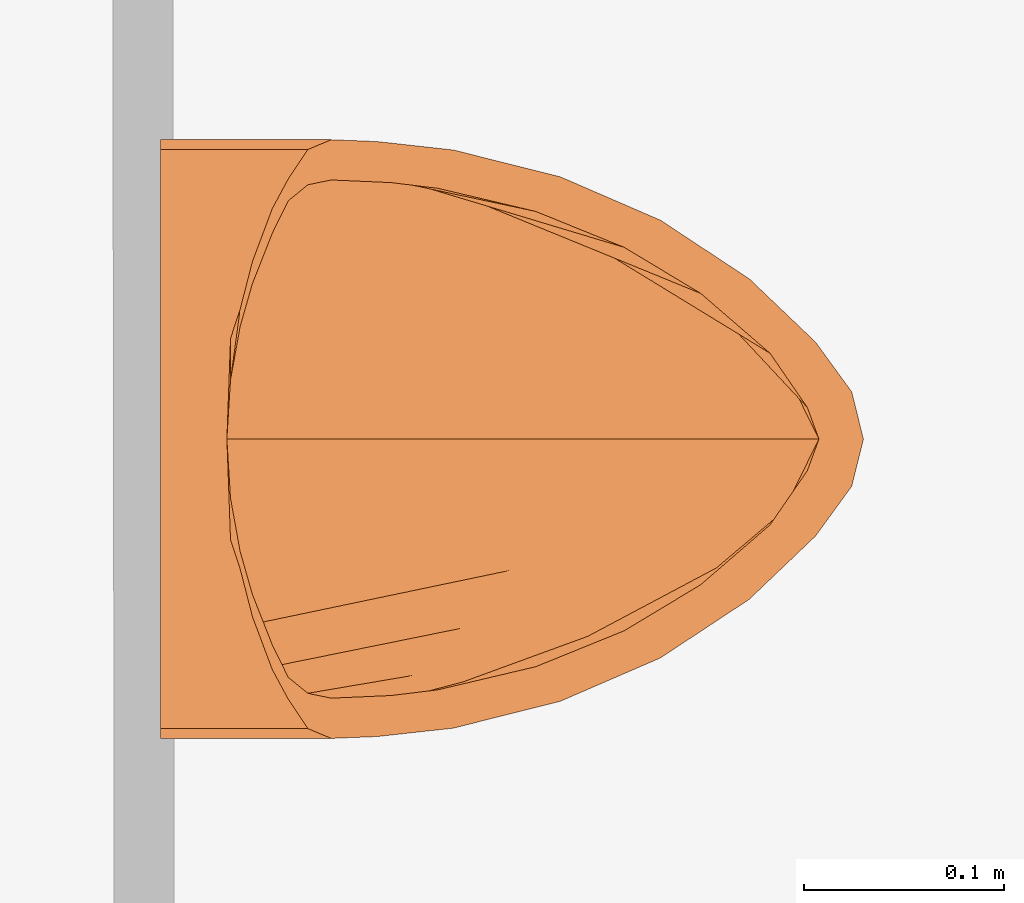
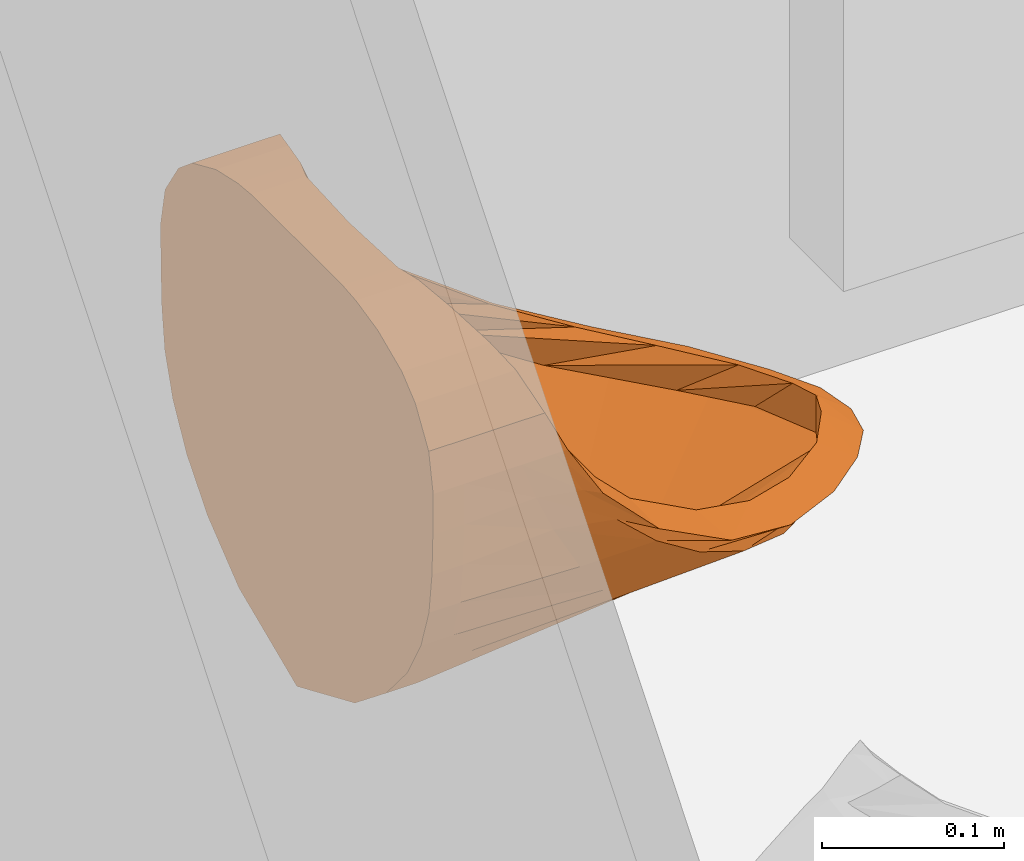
# One storey, part 157 of 158: 1 proxy.
"""IFC2X3 building model written with IfcOpenShell, lengths in metres."""

from ifc_helpers import new_model, entity, si_unit, converted_unit, derived_unit, money_unit, direction, frame, origin_with_axes, place, context, subcontext, project, spatial, open_shell, faceted_brep, surface_model, type_object, element, save


model = new_model("IFC2X3")

# Units and contexts
model_context = context("Model", 3, precision=1e-05, world=origin_with_axes(), true_north=direction((0.0, 1.0)))
body_context = subcontext(model_context, "Body", "Model", "MODEL_VIEW")
ifc_project = project(units=[si_unit("LENGTHUNIT", "METRE"), si_unit("AREAUNIT", "SQUARE_METRE"), si_unit("VOLUMEUNIT", "CUBIC_METRE"), converted_unit("PLANEANGLEUNIT", "DEGREE", entity("IfcPlaneAngleMeasure", 0.0174532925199), si_unit("PLANEANGLEUNIT", "RADIAN"), dimensions=[0, 0, 0, 0, 0, 0, 0]), money_unit("EUR"), converted_unit("TIMEUNIT", "Year", entity("IfcTimeMeasure", 31556926.0), si_unit("TIMEUNIT", "SECOND"), dimensions=[0, 0, 1, 0, 0, 0, 0]), si_unit("MASSUNIT", "GRAM", prefix="KILO"), si_unit("THERMODYNAMICTEMPERATUREUNIT", "DEGREE_CELSIUS"), si_unit("LUMINOUSINTENSITYUNIT", "LUMEN"), si_unit("ENERGYUNIT", "JOULE", prefix="MEGA"), derived_unit("THERMALCONDUCTANCEUNIT", [(si_unit("POWERUNIT", "WATT"), 1), (si_unit("LENGTHUNIT", "METRE"), -1), (si_unit("THERMODYNAMICTEMPERATUREUNIT", "KELVIN"), -1)]), derived_unit("SPECIFICHEATCAPACITYUNIT", [(si_unit("ENERGYUNIT", "JOULE"), 1), (si_unit("MASSUNIT", "GRAM", prefix="KILO"), -1), (si_unit("THERMODYNAMICTEMPERATUREUNIT", "KELVIN"), -1)]), derived_unit("MASSDENSITYUNIT", [(si_unit("MASSUNIT", "GRAM", prefix="KILO"), 1), (si_unit("VOLUMEUNIT", "CUBIC_METRE"), -1)])], contexts=[model_context])

# Site, building, storey
site_placement = place(None, origin_with_axes())
site = spatial("IfcSite", under=ifc_project, at=site_placement, Name="Gelände", CompositionType="ELEMENT")
building_placement = place(site_placement, origin_with_axes())
building = spatial("IfcBuilding", under=site, at=building_placement, Name="Gebäude", CompositionType="ELEMENT")
storey_placement = place(building_placement, origin_with_axes())
storey = spatial("IfcBuildingStorey", under=building, at=storey_placement, Name="ERDGESCHOSS", CompositionType="ELEMENT", Elevation=0.0)

# Proxy
building_element_proxy_type = type_object("IfcBuildingElementProxyType", Name="Urinal 1 25", PredefinedType="NOTDEFINED")
proxy_placement = place(storey_placement, frame((13.2942013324, 24.9743781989, -0.10687853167), z_axis=(0.0, 0.0, 1.0), x_axis=(0.0, 1.0, 0.0)))
element("IfcBuildingElementProxy", 1, at=proxy_placement, inside=storey, type_object=building_element_proxy_type, Name="Objekt-00219", context=body_context, shape_type="SurfaceModel", body=[
    faceted_brep([(0.0, 0.00664554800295, 1.0), (-0.0503710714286, 0.00664554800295, 0.999898), (-0.0503710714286, 0.0, 0.999898), (0.0, 0.0, 1.0), (0.0503710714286, 0.00664554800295, 0.999898), (0.0650260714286, 0.00664554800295, 0.998525), (0.0890367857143, 0.00664554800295, 0.993198), (0.115533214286, 0.00664554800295, 0.981535), (0.130329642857, 0.00664554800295, 0.969181), (0.1451025, 0.00664554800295, 0.945871), (0.15, 0.00664554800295, 0.920148), (0.149671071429, 0.00664554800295, 0.89263), (0.148683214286, 0.00664554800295, 0.865111), (0.145370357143, 0.00664554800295, 0.837593), (0.136527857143, 0.00664554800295, 0.810074), (0.121330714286, 0.00664554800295, 0.782556), (0.0982478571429, 0.00664554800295, 0.755037), (0.0638796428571, 0.00664554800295, 0.727519), (0.0, 0.00664554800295, 0.7), (-0.0638796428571, 0.00664554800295, 0.727519), (-0.0982478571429, 0.00664554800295, 0.755037), (-0.121330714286, 0.00664554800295, 0.782556), (-0.136527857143, 0.00664554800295, 0.810074), (-0.145370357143, 0.00664554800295, 0.837593), (-0.148683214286, 0.00664554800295, 0.865111), (-0.149671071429, 0.00664554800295, 0.89263), (-0.15, 0.00664554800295, 0.920148), (-0.1451025, 0.00664554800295, 0.945871), (-0.130329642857, 0.00664554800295, 0.969181), (-0.115533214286, 0.00664554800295, 0.981535), (-0.0890367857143, 0.00664554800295, 0.993198), (-0.0650260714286, 0.00664554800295, 0.998525), (-0.0650260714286, 0.0, 0.998525), (-0.0890367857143, 0.0, 0.993198), (-0.115533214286, 0.0, 0.981535), (-0.130329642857, 0.0, 0.969181), (-0.1451025, 0.0, 0.945871), (-0.15, 0.0, 0.920148), (-0.149671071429, 0.0, 0.89263), (-0.148683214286, 0.0, 0.865111), (-0.145370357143, 0.0, 0.837593), (-0.136527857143, 0.0, 0.810074), (-0.121330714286, 0.0, 0.782556), (-0.0982478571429, 0.0, 0.755037), (-0.0638796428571, 0.0, 0.727519), (0.0, 0.0, 0.7), (0.0638796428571, 0.0, 0.727519), (0.0982478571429, 0.0, 0.755037), (0.121330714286, 0.0, 0.782556), (0.136527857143, 0.0, 0.810074), (0.145370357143, 0.0, 0.837593), (0.148683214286, 0.0, 0.865111), (0.149671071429, 0.0, 0.89263), (0.15, 0.0, 0.920148), (0.1451025, 0.0, 0.945871), (0.130329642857, 0.0, 0.969181), (0.115533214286, 0.0, 0.981535), (0.0890367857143, 0.0, 0.993198), (0.0650260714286, 0.0, 0.998525), (0.0503710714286, 0.0, 0.999898)], [[[0, 1, 2, 3]], [[0, 4, 5, 6, 7, 8, 9, 10, 11, 12, 13, 14, 15, 16, 17, 18, 19, 20, 21, 22, 23, 24, 25, 26, 27, 28, 29, 30, 31, 1]], [[1, 31, 32, 2]], [[3, 2, 32, 33, 34, 35, 36, 37, 38, 39, 40, 41, 42, 43, 44, 45, 46, 47, 48, 49, 50, 51, 52, 53, 54, 55, 56, 57, 58, 59]], [[4, 0, 3, 59]], [[5, 4, 59, 58]], [[6, 5, 58, 57]], [[7, 6, 57, 56]], [[8, 7, 56, 55]], [[9, 8, 55, 54]], [[10, 9, 54, 53]], [[11, 10, 53, 52]], [[12, 11, 52, 51]], [[13, 12, 51, 50]], [[14, 13, 50, 49]], [[15, 14, 49, 48]], [[16, 15, 48, 47]], [[17, 16, 47, 46]], [[18, 17, 46, 45]], [[19, 18, 45, 44]], [[20, 19, 44, 43]], [[21, 20, 43, 42]], [[22, 21, 42, 41]], [[23, 22, 41, 40]], [[24, 23, 40, 39]], [[25, 24, 39, 38]], [[26, 25, 38, 37]], [[27, 26, 37, 36]], [[28, 27, 36, 35]], [[29, 28, 35, 34]], [[30, 29, 34, 33]], [[31, 30, 33, 32]]]),
    surface_model("IfcShellBasedSurfaceModel", [(0.0, 0.0, 1.0), (0.0, -0.0132910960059, 1.0), (-0.0503710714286, -0.0132910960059, 0.999898), (0.0503710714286, 0.0, 0.999898), (-0.0503710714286, -0.0199818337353, 0.999898), (-0.0503710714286, 0.0, 0.999898), (0.0503710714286, -0.0132910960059, 0.999898), (0.0, -0.0199366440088, 1.0), (-0.0650260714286, -0.0205918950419, 0.998525), (-0.0650260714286, -0.0132910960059, 0.998525), (0.0650260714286, 0.0, 0.998525), (-0.0503710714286, -0.0255787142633, 0.999898), (-0.0650260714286, -0.0264399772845, 0.998525), (-0.0650260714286, 0.0, 0.998525), (0.0650260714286, -0.0132910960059, 0.998525), (0.0503710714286, -0.0199818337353, 0.999898), (0.0, -0.0255096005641, 1.0), (-0.0890367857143, -0.0299953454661, 0.993198), (-0.0890367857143, -0.022924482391, 0.993198), (-0.0890367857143, -0.0132910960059, 0.993198), (0.0890367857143, 0.0, 0.993198), (-0.0503710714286, -0.0284030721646, 0.999898), (-0.0650260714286, -0.0332184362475, 0.998525), (-0.0890367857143, -0.0394094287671, 0.993198), (-0.0890367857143, 0.0, 0.993198), (0.0890367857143, -0.0132910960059, 0.993198), (0.0650260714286, -0.0205918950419, 0.998525), (0.0503710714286, -0.0255787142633, 0.999898), (0.0, -0.0265821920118, 1.0), (-0.115533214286, -0.0493511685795, 0.981535), (-0.115533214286, -0.037406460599, 0.981535), (-0.115533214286, -0.0278475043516, 0.981535), (-0.115533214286, -0.0132910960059, 0.981535), (0.115533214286, 0.0, 0.981535), (-0.115533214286, 0.0, 0.981535), (0.115533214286, -0.0132910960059, 0.981535), (0.0890367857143, -0.022924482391, 0.993198), (0.0650260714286, -0.0264399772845, 0.998525), (0.0503710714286, -0.0284030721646, 0.999898), (-0.130329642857, -0.0573218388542, 0.969181), (-0.130329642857, -0.0448800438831, 0.969181), (-0.130329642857, -0.0327917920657, 0.969181), (-0.130329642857, -0.0132910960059, 0.969181), (0.130329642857, 0.0, 0.969181), (-0.130329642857, 0.0, 0.969181), (0.130329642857, -0.0132910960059, 0.969181), (0.115533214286, -0.0278475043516, 0.981535), (0.0890367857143, -0.0299953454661, 0.993198), (0.0650260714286, -0.0332184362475, 0.998525), (-0.1451025, -0.0671731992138, 0.945871), (-0.1451025, -0.0579611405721, 0.945871), (-0.1451025, -0.0413751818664, 0.945871), (-0.1451025, -0.0132910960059, 0.945871), (0.1451025, 0.0, 0.945871), (-0.1451025, 0.0, 0.945871), (0.1451025, -0.0132910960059, 0.945871), (0.130329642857, -0.0327917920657, 0.969181), (0.115533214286, -0.037406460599, 0.981535), (0.0890367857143, -0.0394094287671, 0.993198), (-0.15, -0.0788587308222, 0.920148), (-0.15, -0.0709079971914, 0.920148), (-0.15, -0.0497366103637, 0.920148), (-0.15, -0.0132910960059, 0.920148), (0.15, 0.0, 0.920148), (-0.15, 0.0, 0.920148), (0.15, -0.0132910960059, 0.920148), (0.1451025, -0.0413751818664, 0.945871), (0.130329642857, -0.0448800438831, 0.969181), (0.115533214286, -0.0493511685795, 0.981535), (-0.149088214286, -0.101763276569, 0.882346), (-0.148938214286, -0.0888948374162, 0.888729), (-0.148493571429, -0.0595042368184, 0.893637), (-0.149671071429, -0.0132910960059, 0.89263), (0.149671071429, 0.0, 0.89263), (-0.149671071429, 0.0, 0.89263), (0.149671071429, -0.0132910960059, 0.89263), (0.15, -0.0497366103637, 0.920148), (0.1451025, -0.0579611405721, 0.945871), (0.130329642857, -0.0573218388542, 0.969181), (-0.144867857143, -0.140032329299, 0.842424), (-0.146004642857, -0.112082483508, 0.859303), (-0.1458225, -0.0721002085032, 0.866246), (-0.148683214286, -0.0132910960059, 0.865111), (0.148683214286, 0.0, 0.865111), (-0.148683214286, 0.0, 0.865111), (0.148683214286, -0.0132910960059, 0.865111), (0.148493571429, -0.0595042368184, 0.893637), (0.15, -0.0709079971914, 0.920148), (0.1451025, -0.0671731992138, 0.945871), (-0.131359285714, -0.19376955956, 0.807653), (-0.1416, -0.140089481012, 0.832354), (-0.137941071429, -0.0936357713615, 0.829001), (-0.145370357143, -0.0132910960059, 0.837593), (0.145370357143, 0.0, 0.837593), (-0.145370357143, 0.0, 0.837593), (0.145370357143, -0.0132910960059, 0.837593), (0.1458225, -0.0721002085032, 0.866246), (0.148938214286, -0.0888948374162, 0.888729), (0.15, -0.0788587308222, 0.920148), (-0.109682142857, -0.243829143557, 0.787417), (-0.133041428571, -0.172454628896, 0.808327), (-0.118344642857, -0.120457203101, 0.792232), (-0.136527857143, -0.0132910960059, 0.810074), (0.136527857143, 0.0, 0.810074), (-0.136527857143, 0.0, 0.810074), (0.136527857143, -0.0132910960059, 0.810074), (0.137941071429, -0.0936357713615, 0.829001), (0.146004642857, -0.112082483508, 0.859303), (0.149088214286, -0.101763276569, 0.882346), (-0.0803528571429, -0.288311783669, 0.776444), (-0.1187925, -0.20864495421, 0.787618), (-0.09477, -0.1442549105, 0.76517), (-0.121330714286, -0.0132910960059, 0.782556), (0.121330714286, 0.0, 0.782556), (-0.121330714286, 0.0, 0.782556), (0.121330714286, -0.0132910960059, 0.782556), (0.118344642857, -0.120457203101, 0.792232), (0.1416, -0.140089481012, 0.832354), (0.144867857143, -0.140032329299, 0.842424), (-0.0486064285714, -0.321579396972, 0.768676), (-0.0942653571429, -0.248062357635, 0.770567), (-0.0659742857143, -0.167632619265, 0.742159), (-0.0982478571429, -0.0132910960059, 0.755037), (0.0982478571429, 0.0, 0.755037), (-0.0982478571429, 0.0, 0.755037), (0.0982478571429, -0.0132910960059, 0.755037), (0.09477, -0.1442549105, 0.76517), (0.133041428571, -0.172454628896, 0.808327), (0.131359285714, -0.19376955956, 0.807653), (-0.0237192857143, -0.339672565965, 0.765137), (-0.0589767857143, -0.290058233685, 0.757456), (-0.0335507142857, -0.190103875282, 0.724265), (-0.0638796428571, -0.0132910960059, 0.727519), (0.0638796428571, 0.0, 0.727519), (-0.0638796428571, 0.0, 0.727519), (0.0638796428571, -0.0132910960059, 0.727519), (0.0659742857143, -0.167632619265, 0.742159), (0.1187925, -0.20864495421, 0.787618), (0.109682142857, -0.243829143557, 0.787417), (0.0, -0.345568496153, 0.763229), (0.0, -0.333940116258, 0.748501), (0.0, -0.21040868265, 0.712313), (0.0, -0.0132910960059, 0.7), (0.0, 0.0, 0.7), (0.0335507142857, -0.190103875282, 0.724265), (0.0942653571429, -0.248062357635, 0.770567), (0.0803528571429, -0.288311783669, 0.776444), (0.0237192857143, -0.339672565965, 0.765137), (0.0589767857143, -0.290058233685, 0.757456), (0.0486064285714, -0.321579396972, 0.768676)], [open_shell([[[0, 1, 2]], [[3, 1, 0]], [[1, 4, 2]], [[0, 2, 5]], [[3, 6, 1]], [[1, 7, 4]], [[2, 4, 8]], [[5, 2, 9]], [[10, 6, 3]], [[6, 7, 1]], [[7, 11, 4]], [[4, 12, 8]], [[2, 8, 9]], [[5, 9, 13]], [[10, 14, 6]], [[6, 15, 7]], [[7, 16, 11]], [[4, 11, 12]], [[8, 12, 17]], [[9, 8, 18]], [[13, 9, 19]], [[20, 14, 10]], [[14, 15, 6]], [[15, 16, 7]], [[16, 21, 11]], [[11, 22, 12]], [[12, 23, 17]], [[8, 17, 18]], [[9, 18, 19]], [[13, 19, 24]], [[20, 25, 14]], [[14, 26, 15]], [[15, 27, 16]], [[16, 28, 21]], [[11, 21, 22]], [[12, 22, 23]], [[17, 23, 29]], [[18, 17, 30]], [[19, 18, 31]], [[24, 19, 32]], [[33, 25, 20]], [[25, 26, 14]], [[26, 27, 15]], [[27, 28, 16]], [[17, 29, 30]], [[18, 30, 31]], [[19, 31, 32]], [[24, 32, 34]], [[33, 35, 25]], [[25, 36, 26]], [[26, 37, 27]], [[27, 38, 28]], [[30, 29, 39]], [[31, 30, 40]], [[32, 31, 41]], [[34, 32, 42]], [[43, 35, 33]], [[35, 36, 25]], [[36, 37, 26]], [[37, 38, 27]], [[30, 39, 40]], [[31, 40, 41]], [[32, 41, 42]], [[34, 42, 44]], [[43, 45, 35]], [[35, 46, 36]], [[36, 47, 37]], [[37, 48, 38]], [[40, 39, 49]], [[41, 40, 50]], [[42, 41, 51]], [[44, 42, 52]], [[53, 45, 43]], [[45, 46, 35]], [[46, 47, 36]], [[47, 48, 37]], [[40, 49, 50]], [[41, 50, 51]], [[42, 51, 52]], [[44, 52, 54]], [[53, 55, 45]], [[45, 56, 46]], [[46, 57, 47]], [[47, 58, 48]], [[50, 49, 59]], [[51, 50, 60]], [[52, 51, 61]], [[54, 52, 62]], [[63, 55, 53]], [[55, 56, 45]], [[56, 57, 46]], [[57, 58, 47]], [[50, 59, 60]], [[51, 60, 61]], [[52, 61, 62]], [[54, 62, 64]], [[63, 65, 55]], [[55, 66, 56]], [[56, 67, 57]], [[57, 68, 58]], [[60, 59, 69]], [[61, 60, 70]], [[62, 61, 71]], [[64, 62, 72]], [[73, 65, 63]], [[65, 66, 55]], [[66, 67, 56]], [[67, 68, 57]], [[60, 69, 70]], [[61, 70, 71]], [[62, 71, 72]], [[64, 72, 74]], [[73, 75, 65]], [[65, 76, 66]], [[66, 77, 67]], [[67, 78, 68]], [[70, 69, 79]], [[71, 70, 80]], [[72, 71, 81]], [[74, 72, 82]], [[83, 75, 73]], [[75, 76, 65]], [[76, 77, 66]], [[77, 78, 67]], [[70, 79, 80]], [[71, 80, 81]], [[72, 81, 82]], [[74, 82, 84]], [[83, 85, 75]], [[75, 86, 76]], [[76, 87, 77]], [[77, 88, 78]], [[80, 79, 89]], [[81, 80, 90]], [[82, 81, 91]], [[84, 82, 92]], [[93, 85, 83]], [[85, 86, 75]], [[86, 87, 76]], [[87, 88, 77]], [[80, 89, 90]], [[81, 90, 91]], [[82, 91, 92]], [[84, 92, 94]], [[93, 95, 85]], [[85, 96, 86]], [[86, 97, 87]], [[87, 98, 88]], [[90, 89, 99]], [[91, 90, 100]], [[92, 91, 101]], [[94, 92, 102]], [[103, 95, 93]], [[95, 96, 85]], [[96, 97, 86]], [[97, 98, 87]], [[90, 99, 100]], [[91, 100, 101]], [[92, 101, 102]], [[94, 102, 104]], [[103, 105, 95]], [[95, 106, 96]], [[96, 107, 97]], [[97, 108, 98]], [[100, 99, 109]], [[101, 100, 110]], [[102, 101, 111]], [[104, 102, 112]], [[113, 105, 103]], [[105, 106, 95]], [[106, 107, 96]], [[107, 108, 97]], [[100, 109, 110]], [[101, 110, 111]], [[102, 111, 112]], [[104, 112, 114]], [[113, 115, 105]], [[105, 116, 106]], [[106, 117, 107]], [[107, 118, 108]], [[110, 109, 119]], [[111, 110, 120]], [[112, 111, 121]], [[114, 112, 122]], [[123, 115, 113]], [[115, 116, 105]], [[116, 117, 106]], [[117, 118, 107]], [[110, 119, 120]], [[111, 120, 121]], [[112, 121, 122]], [[114, 122, 124]], [[123, 125, 115]], [[115, 126, 116]], [[116, 127, 117]], [[117, 128, 118]], [[120, 119, 129]], [[121, 120, 130]], [[122, 121, 131]], [[124, 122, 132]], [[133, 125, 123]], [[125, 126, 115]], [[126, 127, 116]], [[127, 128, 117]], [[120, 129, 130]], [[121, 130, 131]], [[122, 131, 132]], [[124, 132, 134]], [[133, 135, 125]], [[125, 136, 126]], [[126, 137, 127]], [[127, 138, 128]], [[130, 129, 139]], [[131, 130, 140]], [[132, 131, 141]], [[134, 132, 142]], [[143, 135, 133]], [[135, 136, 125]], [[136, 137, 126]], [[137, 138, 127]], [[130, 139, 140]], [[131, 140, 141]], [[132, 141, 142]], [[134, 142, 143]], [[143, 142, 135]], [[135, 144, 136]], [[136, 145, 137]], [[137, 146, 138]], [[140, 139, 147]], [[141, 140, 148]], [[142, 141, 144]], [[142, 144, 135]], [[144, 145, 136]], [[145, 146, 137]], [[140, 147, 148]], [[141, 148, 144]], [[144, 148, 145]], [[145, 149, 146]], [[148, 147, 149]], [[148, 149, 145]]])]),
    surface_model("IfcShellBasedSurfaceModel", [(0.0, -0.0265821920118, 1.0), (0.0, -0.0265821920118, 0.99), (-0.0295992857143, -0.0284030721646, 0.988966), (0.0503710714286, -0.0284030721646, 0.999898), (-0.0503710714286, -0.0284030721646, 0.999898), (0.0295992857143, -0.0284030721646, 0.988966), (-0.056325, -0.0332184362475, 0.98626), (0.0650260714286, -0.0332184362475, 0.998525), (-0.0650260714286, -0.0332184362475, 0.998525), (0.056325, -0.0332184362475, 0.98626), (-0.0779764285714, -0.0394094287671, 0.98082), (0.0890367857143, -0.0394094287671, 0.993198), (-0.0890367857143, -0.0394094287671, 0.993198), (0.0779764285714, -0.0394094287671, 0.98082), (-0.103178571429, -0.0493511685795, 0.968491), (0.115533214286, -0.0493511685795, 0.981535), (-0.115533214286, -0.0493511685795, 0.981535), (0.103178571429, -0.0493511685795, 0.968491), (-0.119395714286, -0.0573218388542, 0.952746), (0.130329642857, -0.0573218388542, 0.969181), (-0.130329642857, -0.0573218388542, 0.969181), (0.119395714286, -0.0573218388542, 0.952746), (-0.127429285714, -0.0671731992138, 0.936322), (0.1451025, -0.0671731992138, 0.945871), (-0.1451025, -0.0671731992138, 0.945871), (0.127429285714, -0.0671731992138, 0.936322), (-0.129833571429, -0.0788587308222, 0.920148), (0.15, -0.0788587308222, 0.920148), (-0.15, -0.0788587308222, 0.920148), (0.129833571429, -0.0788587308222, 0.920148), (-0.128517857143, -0.108956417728, 0.87807), (0.149088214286, -0.101763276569, 0.882346), (-0.149088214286, -0.101763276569, 0.882346), (0.128517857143, -0.108956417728, 0.87807), (-0.125659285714, -0.132300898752, 0.854025), (0.144867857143, -0.140032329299, 0.842424), (-0.144867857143, -0.140032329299, 0.842424), (0.125659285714, -0.132300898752, 0.854025), (-0.114079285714, -0.181322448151, 0.821972), (0.131359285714, -0.19376955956, 0.807653), (-0.131359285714, -0.19376955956, 0.807653), (0.114079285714, -0.181322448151, 0.821972), (-0.09609, -0.225666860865, 0.801839), (0.109682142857, -0.243829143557, 0.787417), (-0.109682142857, -0.243829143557, 0.787417), (0.09609, -0.225666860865, 0.801839), (-0.0730071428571, -0.264001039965, 0.790008), (0.0803528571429, -0.288311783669, 0.776444), (-0.0803528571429, -0.288311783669, 0.776444), (0.0730071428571, -0.264001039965, 0.790008), (-0.0429910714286, -0.298777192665, 0.783002), (0.0486064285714, -0.321579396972, 0.768676), (-0.0486064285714, -0.321579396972, 0.768676), (0.0429910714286, -0.298777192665, 0.783002), (-0.0157767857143, -0.317489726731, 0.78057), (0.0237192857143, -0.339672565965, 0.765137), (-0.0237192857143, -0.339672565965, 0.765137), (0.0157767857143, -0.317489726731, 0.78057), (0.0, -0.323277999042, 0.78), (0.0, -0.345568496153, 0.763229)], [open_shell([[[0, 1, 2]], [[3, 1, 0]], [[0, 2, 4]], [[3, 5, 1]], [[4, 2, 6]], [[7, 5, 3]], [[4, 6, 8]], [[7, 9, 5]], [[8, 6, 10]], [[11, 9, 7]], [[8, 10, 12]], [[11, 13, 9]], [[12, 10, 14]], [[15, 13, 11]], [[12, 14, 16]], [[15, 17, 13]], [[16, 14, 18]], [[19, 17, 15]], [[16, 18, 20]], [[19, 21, 17]], [[20, 18, 22]], [[23, 21, 19]], [[20, 22, 24]], [[23, 25, 21]], [[24, 22, 26]], [[27, 25, 23]], [[24, 26, 28]], [[27, 29, 25]], [[28, 26, 30]], [[31, 29, 27]], [[28, 30, 32]], [[31, 33, 29]], [[32, 30, 34]], [[35, 33, 31]], [[32, 34, 36]], [[35, 37, 33]], [[36, 34, 38]], [[39, 37, 35]], [[36, 38, 40]], [[39, 41, 37]], [[40, 38, 42]], [[43, 41, 39]], [[40, 42, 44]], [[43, 45, 41]], [[44, 42, 46]], [[47, 45, 43]], [[44, 46, 48]], [[47, 49, 45]], [[48, 46, 50]], [[51, 49, 47]], [[48, 50, 52]], [[51, 53, 49]], [[52, 50, 54]], [[55, 53, 51]], [[52, 54, 56]], [[55, 57, 53]], [[56, 54, 58]], [[59, 57, 55]], [[56, 58, 59]], [[59, 58, 57]]])]),
    surface_model("IfcShellBasedSurfaceModel", [(0.0, -0.0265821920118, 0.99), (0.0, -0.0190527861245, 0.965651), (-0.0274382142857, -0.0221203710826, 0.964581), (0.0295992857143, -0.0284030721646, 0.988966), (-0.0295992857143, -0.0284030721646, 0.988966), (0.0274382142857, -0.0221203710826, 0.964581), (-0.0502746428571, -0.0247493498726, 0.962521), (0.056325, -0.0332184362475, 0.98626), (-0.056325, -0.0332184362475, 0.98626), (0.0502746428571, -0.0247493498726, 0.962521), (-0.0711675, -0.0265502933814, 0.959712), (0.0779764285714, -0.0394094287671, 0.98082), (-0.0779764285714, -0.0394094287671, 0.98082), (0.0711675, -0.0265502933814, 0.959712), (-0.0919746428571, -0.0293587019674, 0.954245), (0.103178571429, -0.0493511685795, 0.968491), (-0.103178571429, -0.0493511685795, 0.968491), (0.0919746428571, -0.0293587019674, 0.954245), (-0.111946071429, -0.0330363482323, 0.945674), (0.119395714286, -0.0573218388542, 0.952746), (-0.119395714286, -0.0573218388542, 0.952746), (0.111946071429, -0.0330363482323, 0.945674), (-0.123648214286, -0.0368336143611, 0.937494), (0.127429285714, -0.0671731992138, 0.936322), (-0.127429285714, -0.0671731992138, 0.936322), (0.123648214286, -0.0368336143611, 0.937494), (-0.136245, -0.0427361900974, 0.920148), (0.129833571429, -0.0788587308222, 0.920148), (-0.129833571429, -0.0788587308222, 0.920148), (0.136245, -0.0427361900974, 0.920148), (-0.136804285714, -0.0587772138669, 0.892365), (0.128517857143, -0.108956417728, 0.87807), (-0.128517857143, -0.108956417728, 0.87807), (0.136804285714, -0.0587772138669, 0.892365), (-0.135535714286, -0.0804815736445, 0.864684), (0.125659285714, -0.132300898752, 0.854025), (-0.125659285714, -0.132300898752, 0.854025), (0.135535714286, -0.0804815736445, 0.864684), (-0.131289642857, -0.108730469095, 0.837549), (0.114079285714, -0.181322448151, 0.821972), (-0.114079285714, -0.181322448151, 0.821972), (0.131289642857, -0.108730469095, 0.837549), (-0.121640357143, -0.145040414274, 0.811391), (0.09609, -0.225666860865, 0.801839), (-0.09609, -0.225666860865, 0.801839), (0.121640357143, -0.145040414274, 0.811391), (-0.0988671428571, -0.207390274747, 0.780769), (0.0730071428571, -0.264001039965, 0.790008), (-0.0730071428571, -0.264001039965, 0.790008), (0.0988671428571, -0.207390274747, 0.780769), (-0.0645653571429, -0.271919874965, 0.762219), (0.0429910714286, -0.298777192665, 0.783002), (-0.0429910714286, -0.298777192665, 0.783002), (0.0645653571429, -0.271919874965, 0.762219), (-0.0362764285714, -0.305373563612, 0.756815), (0.0157767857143, -0.317489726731, 0.78057), (-0.0157767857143, -0.317489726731, 0.78057), (0.0362764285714, -0.305373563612, 0.756815), (0.0, -0.323277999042, 0.755), (0.0, -0.323277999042, 0.78)], [open_shell([[[0, 1, 2]], [[3, 1, 0]], [[0, 2, 4]], [[3, 5, 1]], [[4, 2, 6]], [[7, 5, 3]], [[4, 6, 8]], [[7, 9, 5]], [[8, 6, 10]], [[11, 9, 7]], [[8, 10, 12]], [[11, 13, 9]], [[12, 10, 14]], [[15, 13, 11]], [[12, 14, 16]], [[15, 17, 13]], [[16, 14, 18]], [[19, 17, 15]], [[16, 18, 20]], [[19, 21, 17]], [[20, 18, 22]], [[23, 21, 19]], [[20, 22, 24]], [[23, 25, 21]], [[24, 22, 26]], [[27, 25, 23]], [[24, 26, 28]], [[27, 29, 25]], [[28, 26, 30]], [[31, 29, 27]], [[28, 30, 32]], [[31, 33, 29]], [[32, 30, 34]], [[35, 33, 31]], [[32, 34, 36]], [[35, 37, 33]], [[36, 34, 38]], [[39, 37, 35]], [[36, 38, 40]], [[39, 41, 37]], [[40, 38, 42]], [[43, 41, 39]], [[40, 42, 44]], [[43, 45, 41]], [[44, 42, 46]], [[47, 45, 43]], [[44, 46, 48]], [[47, 49, 45]], [[48, 46, 50]], [[51, 49, 47]], [[48, 50, 52]], [[51, 53, 49]], [[52, 50, 54]], [[55, 53, 51]], [[52, 54, 56]], [[55, 57, 53]], [[56, 54, 58]], [[59, 57, 55]], [[56, 58, 59]], [[59, 58, 57]]])]),
])

save(model, "model.ifc")
